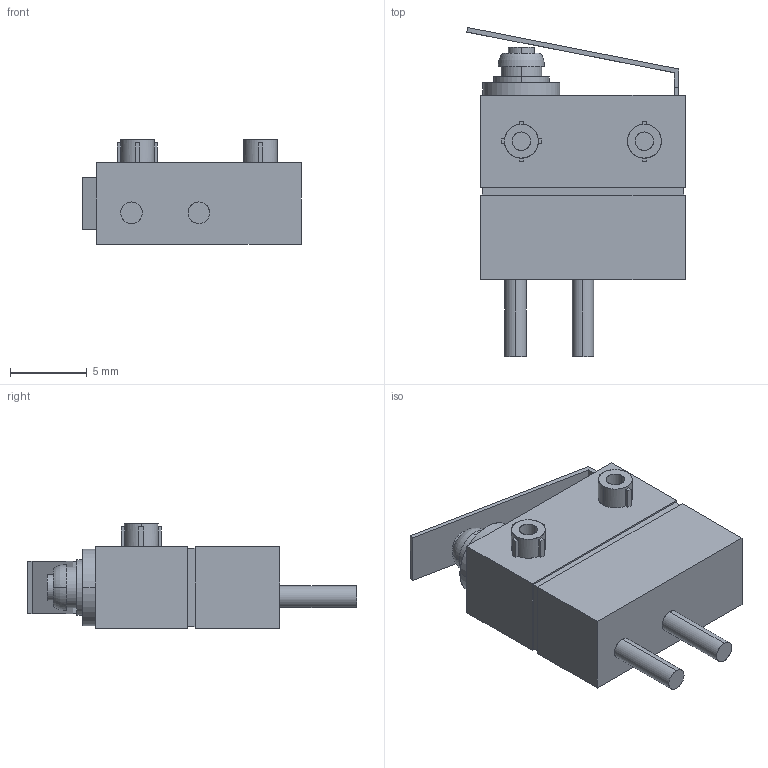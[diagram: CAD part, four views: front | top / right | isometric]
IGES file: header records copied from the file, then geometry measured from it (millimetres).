
Start section: OSMC1.0    IGES FILE using analytic representation for surfaces
Global section: file name: C:\OMRON\Data\D2AW_R1_EL063MP.igs; native system: SolidWorks 2001Plus by SolidWorks Corporation; preprocessor: Version 5.3; author: sakane; date: 240517.145324; units: millimetre
Bounding box: 14.2 x 21.4 x 6.8 mm (x, y, z)
Surface area: 951 mm2 (no closed solid volume)
Topology: 0 solids, 0 shells, 96 faces, 916 edges, 916 vertices
Faces by surface type: bspline 72, revolution 24
